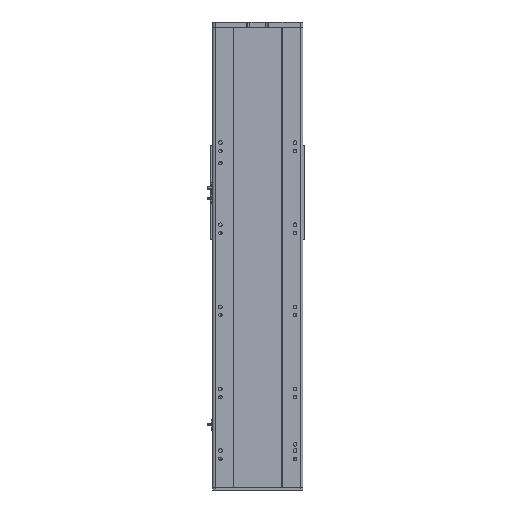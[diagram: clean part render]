
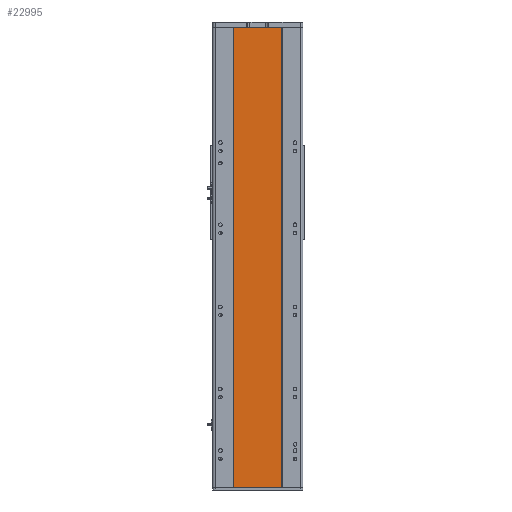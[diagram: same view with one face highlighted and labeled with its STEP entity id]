
A CAD part, front view. The second image highlights one B-rep face of the part: STEP entity #22995.
In plain terms, the highlighted planar face has unit normal (0, -1, 0).
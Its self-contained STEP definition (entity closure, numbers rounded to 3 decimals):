
#778 = ORIENTED_EDGE ( 'NONE', *, *, #1416, .T. ) ;
#1416 = EDGE_CURVE ( 'NONE', #30211, #19414, #21660, .T. ) ;
#2048 = DIRECTION ( 'NONE',  ( -1., 0., 0. ) ) ;
#4608 = CARTESIAN_POINT ( 'NONE',  ( -59., 1., 560.5 ) ) ;
#5017 = VERTEX_POINT ( 'NONE', #25623 ) ;
#5974 = VECTOR ( 'NONE', #24461, 1000. ) ;
#6080 = VERTEX_POINT ( 'NONE', #33540 ) ;
#6113 = EDGE_CURVE ( 'NONE', #5017, #30211, #28937, .T. ) ;
#7420 = EDGE_LOOP ( 'NONE', ( #778, #31790, #31464, #26621 ) ) ;
#9497 = DIRECTION ( 'NONE',  ( 0., 0., -1. ) ) ;
#12681 = FACE_OUTER_BOUND ( 'NONE', #7420, .T. ) ;
#13209 = DIRECTION ( 'NONE',  ( 1., 0., 0. ) ) ;
#13588 = VECTOR ( 'NONE', #13209, 1000. ) ;
#13755 = LINE ( 'NONE', #18271, #29524 ) ;
#14822 = CARTESIAN_POINT ( 'NONE',  ( -59., 1., -560.5 ) ) ;
#16345 = DIRECTION ( 'NONE',  ( 0., 1., 0. ) ) ;
#18271 = CARTESIAN_POINT ( 'NONE',  ( 59., 1., 560.5 ) ) ;
#18729 = CARTESIAN_POINT ( 'NONE',  ( -59., 1., -560.5 ) ) ;
#19150 = CARTESIAN_POINT ( 'NONE',  ( -59., 1., 560.5 ) ) ;
#19234 = CARTESIAN_POINT ( 'NONE',  ( -59., 1., 560.5 ) ) ;
#19414 = VERTEX_POINT ( 'NONE', #28892 ) ;
#21660 = LINE ( 'NONE', #18729, #13588 ) ;
#22995 = ADVANCED_FACE ( 'NONE', ( #12681 ), #33503, .F. ) ;
#23241 = VECTOR ( 'NONE', #24720, 1000. ) ;
#24461 = DIRECTION ( 'NONE',  ( 0., 0., -1. ) ) ;
#24573 = LINE ( 'NONE', #4608, #23241 ) ;
#24720 = DIRECTION ( 'NONE',  ( 1., 0., 0. ) ) ;
#25623 = CARTESIAN_POINT ( 'NONE',  ( -59., 1., 560.5 ) ) ;
#26621 = ORIENTED_EDGE ( 'NONE', *, *, #6113, .T. ) ;
#28892 = CARTESIAN_POINT ( 'NONE',  ( 59., 1., -560.5 ) ) ;
#28937 = LINE ( 'NONE', #19150, #5974 ) ;
#29524 = VECTOR ( 'NONE', #9497, 1000. ) ;
#30211 = VERTEX_POINT ( 'NONE', #14822 ) ;
#31464 = ORIENTED_EDGE ( 'NONE', *, *, #34820, .F. ) ;
#31790 = ORIENTED_EDGE ( 'NONE', *, *, #35124, .F. ) ;
#33503 = PLANE ( 'NONE',  #34041 ) ;
#33540 = CARTESIAN_POINT ( 'NONE',  ( 59., 1., 560.5 ) ) ;
#34041 = AXIS2_PLACEMENT_3D ( 'NONE', #19234, #16345, #2048 ) ;
#34820 = EDGE_CURVE ( 'NONE', #5017, #6080, #24573, .T. ) ;
#35124 = EDGE_CURVE ( 'NONE', #6080, #19414, #13755, .T. ) ;
